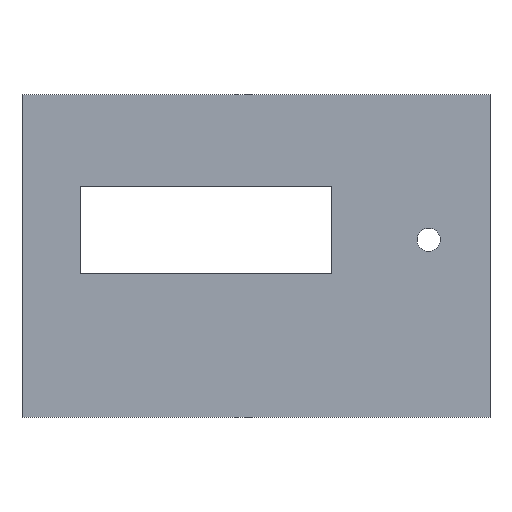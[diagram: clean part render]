
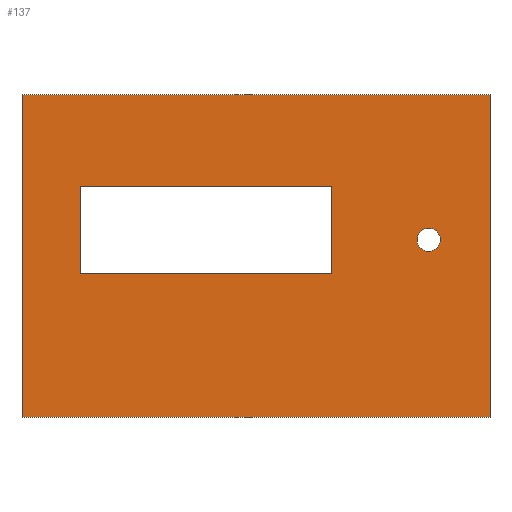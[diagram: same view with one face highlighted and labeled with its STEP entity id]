
A CAD part, front view. The second image highlights one B-rep face of the part: STEP entity #137.
In plain terms, the highlighted planar face has unit normal (0, -1, 0).
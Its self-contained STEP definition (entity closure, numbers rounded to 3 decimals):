
#21 = EDGE_CURVE('',#22,#24,#26,.T.);
#22 = VERTEX_POINT('',#23);
#23 = CARTESIAN_POINT('',(0.,0.,0.));
#24 = VERTEX_POINT('',#25);
#25 = CARTESIAN_POINT('',(0.,0.,100.));
#26 = SURFACE_CURVE('',#27,(#31,#43),.PCURVE_S1.);
#27 = LINE('',#28,#29);
#28 = CARTESIAN_POINT('',(0.,0.,0.));
#29 = VECTOR('',#30,1.);
#30 = DIRECTION('',(0.,0.,1.));
#31 = PCURVE('',#32,#37);
#32 = PLANE('',#33);
#33 = AXIS2_PLACEMENT_3D('',#34,#35,#36);
#34 = CARTESIAN_POINT('',(0.,0.,0.));
#35 = DIRECTION('',(1.,0.,0.));
#36 = DIRECTION('',(0.,0.,1.));
#37 = DEFINITIONAL_REPRESENTATION('',(#38),#42);
#38 = LINE('',#39,#40);
#39 = CARTESIAN_POINT('',(0.,0.));
#40 = VECTOR('',#41,1.);
#41 = DIRECTION('',(1.,0.));
#42 = ( GEOMETRIC_REPRESENTATION_CONTEXT(2) 
PARAMETRIC_REPRESENTATION_CONTEXT() REPRESENTATION_CONTEXT('2D SPACE',''
  ) );
#43 = PCURVE('',#44,#49);
#44 = PLANE('',#45);
#45 = AXIS2_PLACEMENT_3D('',#46,#47,#48);
#46 = CARTESIAN_POINT('',(0.,0.,0.));
#47 = DIRECTION('',(0.,1.,0.));
#48 = DIRECTION('',(0.,0.,1.));
#49 = DEFINITIONAL_REPRESENTATION('',(#50),#54);
#50 = LINE('',#51,#52);
#51 = CARTESIAN_POINT('',(0.,0.));
#52 = VECTOR('',#53,1.);
#53 = DIRECTION('',(1.,0.));
#54 = ( GEOMETRIC_REPRESENTATION_CONTEXT(2) 
PARAMETRIC_REPRESENTATION_CONTEXT() REPRESENTATION_CONTEXT('2D SPACE',''
  ) );
#72 = PLANE('',#73);
#73 = AXIS2_PLACEMENT_3D('',#74,#75,#76);
#74 = CARTESIAN_POINT('',(0.,0.,0.));
#75 = DIRECTION('',(0.,0.,1.));
#76 = DIRECTION('',(1.,0.,0.));
#126 = PLANE('',#127);
#127 = AXIS2_PLACEMENT_3D('',#128,#129,#130);
#128 = CARTESIAN_POINT('',(0.,0.,100.));
#129 = DIRECTION('',(0.,0.,1.));
#130 = DIRECTION('',(1.,0.,0.));
#137 = ADVANCED_FACE('',(#138,#213,#319),#44,.F.);
#138 = FACE_BOUND('',#139,.F.);
#139 = EDGE_LOOP('',(#140,#163,#164,#187));
#140 = ORIENTED_EDGE('',*,*,#141,.F.);
#141 = EDGE_CURVE('',#22,#142,#144,.T.);
#142 = VERTEX_POINT('',#143);
#143 = CARTESIAN_POINT('',(145.,0.,0.));
#144 = SURFACE_CURVE('',#145,(#149,#156),.PCURVE_S1.);
#145 = LINE('',#146,#147);
#146 = CARTESIAN_POINT('',(0.,0.,0.));
#147 = VECTOR('',#148,1.);
#148 = DIRECTION('',(1.,0.,0.));
#149 = PCURVE('',#44,#150);
#150 = DEFINITIONAL_REPRESENTATION('',(#151),#155);
#151 = LINE('',#152,#153);
#152 = CARTESIAN_POINT('',(0.,0.));
#153 = VECTOR('',#154,1.);
#154 = DIRECTION('',(0.,1.));
#155 = ( GEOMETRIC_REPRESENTATION_CONTEXT(2) 
PARAMETRIC_REPRESENTATION_CONTEXT() REPRESENTATION_CONTEXT('2D SPACE',''
  ) );
#156 = PCURVE('',#72,#157);
#157 = DEFINITIONAL_REPRESENTATION('',(#158),#162);
#158 = LINE('',#159,#160);
#159 = CARTESIAN_POINT('',(0.,0.));
#160 = VECTOR('',#161,1.);
#161 = DIRECTION('',(1.,0.));
#162 = ( GEOMETRIC_REPRESENTATION_CONTEXT(2) 
PARAMETRIC_REPRESENTATION_CONTEXT() REPRESENTATION_CONTEXT('2D SPACE',''
  ) );
#163 = ORIENTED_EDGE('',*,*,#21,.T.);
#164 = ORIENTED_EDGE('',*,*,#165,.T.);
#165 = EDGE_CURVE('',#24,#166,#168,.T.);
#166 = VERTEX_POINT('',#167);
#167 = CARTESIAN_POINT('',(145.,0.,100.));
#168 = SURFACE_CURVE('',#169,(#173,#180),.PCURVE_S1.);
#169 = LINE('',#170,#171);
#170 = CARTESIAN_POINT('',(0.,0.,100.));
#171 = VECTOR('',#172,1.);
#172 = DIRECTION('',(1.,0.,0.));
#173 = PCURVE('',#44,#174);
#174 = DEFINITIONAL_REPRESENTATION('',(#175),#179);
#175 = LINE('',#176,#177);
#176 = CARTESIAN_POINT('',(100.,0.));
#177 = VECTOR('',#178,1.);
#178 = DIRECTION('',(0.,1.));
#179 = ( GEOMETRIC_REPRESENTATION_CONTEXT(2) 
PARAMETRIC_REPRESENTATION_CONTEXT() REPRESENTATION_CONTEXT('2D SPACE',''
  ) );
#180 = PCURVE('',#126,#181);
#181 = DEFINITIONAL_REPRESENTATION('',(#182),#186);
#182 = LINE('',#183,#184);
#183 = CARTESIAN_POINT('',(0.,0.));
#184 = VECTOR('',#185,1.);
#185 = DIRECTION('',(1.,0.));
#186 = ( GEOMETRIC_REPRESENTATION_CONTEXT(2) 
PARAMETRIC_REPRESENTATION_CONTEXT() REPRESENTATION_CONTEXT('2D SPACE',''
  ) );
#187 = ORIENTED_EDGE('',*,*,#188,.F.);
#188 = EDGE_CURVE('',#142,#166,#189,.T.);
#189 = SURFACE_CURVE('',#190,(#194,#201),.PCURVE_S1.);
#190 = LINE('',#191,#192);
#191 = CARTESIAN_POINT('',(145.,0.,0.));
#192 = VECTOR('',#193,1.);
#193 = DIRECTION('',(0.,0.,1.));
#194 = PCURVE('',#44,#195);
#195 = DEFINITIONAL_REPRESENTATION('',(#196),#200);
#196 = LINE('',#197,#198);
#197 = CARTESIAN_POINT('',(0.,145.));
#198 = VECTOR('',#199,1.);
#199 = DIRECTION('',(1.,0.));
#200 = ( GEOMETRIC_REPRESENTATION_CONTEXT(2) 
PARAMETRIC_REPRESENTATION_CONTEXT() REPRESENTATION_CONTEXT('2D SPACE',''
  ) );
#201 = PCURVE('',#202,#207);
#202 = PLANE('',#203);
#203 = AXIS2_PLACEMENT_3D('',#204,#205,#206);
#204 = CARTESIAN_POINT('',(145.,0.,0.));
#205 = DIRECTION('',(1.,0.,0.));
#206 = DIRECTION('',(0.,0.,1.));
#207 = DEFINITIONAL_REPRESENTATION('',(#208),#212);
#208 = LINE('',#209,#210);
#209 = CARTESIAN_POINT('',(0.,0.));
#210 = VECTOR('',#211,1.);
#211 = DIRECTION('',(1.,0.));
#212 = ( GEOMETRIC_REPRESENTATION_CONTEXT(2) 
PARAMETRIC_REPRESENTATION_CONTEXT() REPRESENTATION_CONTEXT('2D SPACE',''
  ) );
#213 = FACE_BOUND('',#214,.F.);
#214 = EDGE_LOOP('',(#215,#243,#269,#295));
#215 = ORIENTED_EDGE('',*,*,#216,.F.);
#216 = EDGE_CURVE('',#217,#219,#221,.T.);
#217 = VERTEX_POINT('',#218);
#218 = CARTESIAN_POINT('',(18.,0.,71.5));
#219 = VERTEX_POINT('',#220);
#220 = CARTESIAN_POINT('',(96.,0.,71.5));
#221 = SURFACE_CURVE('',#222,(#226,#232),.PCURVE_S1.);
#222 = LINE('',#223,#224);
#223 = CARTESIAN_POINT('',(9.,0.,71.5));
#224 = VECTOR('',#225,1.);
#225 = DIRECTION('',(1.,0.,0.));
#226 = PCURVE('',#44,#227);
#227 = DEFINITIONAL_REPRESENTATION('',(#228),#231);
#228 = B_SPLINE_CURVE_WITH_KNOTS('',1,(#229,#230),.UNSPECIFIED.,.F.,.F.,
  (2,2),(9.,87.),.PIECEWISE_BEZIER_KNOTS.);
#229 = CARTESIAN_POINT('',(71.5,18.));
#230 = CARTESIAN_POINT('',(71.5,96.));
#231 = ( GEOMETRIC_REPRESENTATION_CONTEXT(2) 
PARAMETRIC_REPRESENTATION_CONTEXT() REPRESENTATION_CONTEXT('2D SPACE',''
  ) );
#232 = PCURVE('',#233,#238);
#233 = PLANE('',#234);
#234 = AXIS2_PLACEMENT_3D('',#235,#236,#237);
#235 = CARTESIAN_POINT('',(18.,-0.1,71.5));
#236 = DIRECTION('',(0.,0.,1.));
#237 = DIRECTION('',(1.,0.,0.));
#238 = DEFINITIONAL_REPRESENTATION('',(#239),#242);
#239 = B_SPLINE_CURVE_WITH_KNOTS('',1,(#240,#241),.UNSPECIFIED.,.F.,.F.,
  (2,2),(9.,87.),.PIECEWISE_BEZIER_KNOTS.);
#240 = CARTESIAN_POINT('',(0.,0.1));
#241 = CARTESIAN_POINT('',(78.,0.1));
#242 = ( GEOMETRIC_REPRESENTATION_CONTEXT(2) 
PARAMETRIC_REPRESENTATION_CONTEXT() REPRESENTATION_CONTEXT('2D SPACE',''
  ) );
#243 = ORIENTED_EDGE('',*,*,#244,.T.);
#244 = EDGE_CURVE('',#217,#245,#247,.T.);
#245 = VERTEX_POINT('',#246);
#246 = CARTESIAN_POINT('',(18.,0.,44.5));
#247 = SURFACE_CURVE('',#248,(#252,#258),.PCURVE_S1.);
#248 = LINE('',#249,#250);
#249 = CARTESIAN_POINT('',(18.,0.,22.25));
#250 = VECTOR('',#251,1.);
#251 = DIRECTION('',(0.,0.,-1.));
#252 = PCURVE('',#44,#253);
#253 = DEFINITIONAL_REPRESENTATION('',(#254),#257);
#254 = B_SPLINE_CURVE_WITH_KNOTS('',1,(#255,#256),.UNSPECIFIED.,.F.,.F.,
  (2,2),(-49.25,-22.25),.PIECEWISE_BEZIER_KNOTS.);
#255 = CARTESIAN_POINT('',(71.5,18.));
#256 = CARTESIAN_POINT('',(44.5,18.));
#257 = ( GEOMETRIC_REPRESENTATION_CONTEXT(2) 
PARAMETRIC_REPRESENTATION_CONTEXT() REPRESENTATION_CONTEXT('2D SPACE',''
  ) );
#258 = PCURVE('',#259,#264);
#259 = PLANE('',#260);
#260 = AXIS2_PLACEMENT_3D('',#261,#262,#263);
#261 = CARTESIAN_POINT('',(18.,-0.1,44.5));
#262 = DIRECTION('',(1.,0.,0.));
#263 = DIRECTION('',(0.,0.,1.));
#264 = DEFINITIONAL_REPRESENTATION('',(#265),#268);
#265 = B_SPLINE_CURVE_WITH_KNOTS('',1,(#266,#267),.UNSPECIFIED.,.F.,.F.,
  (2,2),(-49.25,-22.25),.PIECEWISE_BEZIER_KNOTS.);
#266 = CARTESIAN_POINT('',(27.,-0.1));
#267 = CARTESIAN_POINT('',(0.,-0.1));
#268 = ( GEOMETRIC_REPRESENTATION_CONTEXT(2) 
PARAMETRIC_REPRESENTATION_CONTEXT() REPRESENTATION_CONTEXT('2D SPACE',''
  ) );
#269 = ORIENTED_EDGE('',*,*,#270,.T.);
#270 = EDGE_CURVE('',#245,#271,#273,.T.);
#271 = VERTEX_POINT('',#272);
#272 = CARTESIAN_POINT('',(96.,0.,44.5));
#273 = SURFACE_CURVE('',#274,(#278,#284),.PCURVE_S1.);
#274 = LINE('',#275,#276);
#275 = CARTESIAN_POINT('',(9.,0.,44.5));
#276 = VECTOR('',#277,1.);
#277 = DIRECTION('',(1.,0.,0.));
#278 = PCURVE('',#44,#279);
#279 = DEFINITIONAL_REPRESENTATION('',(#280),#283);
#280 = B_SPLINE_CURVE_WITH_KNOTS('',1,(#281,#282),.UNSPECIFIED.,.F.,.F.,
  (2,2),(9.,87.),.PIECEWISE_BEZIER_KNOTS.);
#281 = CARTESIAN_POINT('',(44.5,18.));
#282 = CARTESIAN_POINT('',(44.5,96.));
#283 = ( GEOMETRIC_REPRESENTATION_CONTEXT(2) 
PARAMETRIC_REPRESENTATION_CONTEXT() REPRESENTATION_CONTEXT('2D SPACE',''
  ) );
#284 = PCURVE('',#285,#290);
#285 = PLANE('',#286);
#286 = AXIS2_PLACEMENT_3D('',#287,#288,#289);
#287 = CARTESIAN_POINT('',(18.,-0.1,44.5));
#288 = DIRECTION('',(0.,0.,1.));
#289 = DIRECTION('',(1.,0.,0.));
#290 = DEFINITIONAL_REPRESENTATION('',(#291),#294);
#291 = B_SPLINE_CURVE_WITH_KNOTS('',1,(#292,#293),.UNSPECIFIED.,.F.,.F.,
  (2,2),(9.,87.),.PIECEWISE_BEZIER_KNOTS.);
#292 = CARTESIAN_POINT('',(0.,0.1));
#293 = CARTESIAN_POINT('',(78.,0.1));
#294 = ( GEOMETRIC_REPRESENTATION_CONTEXT(2) 
PARAMETRIC_REPRESENTATION_CONTEXT() REPRESENTATION_CONTEXT('2D SPACE',''
  ) );
#295 = ORIENTED_EDGE('',*,*,#296,.F.);
#296 = EDGE_CURVE('',#219,#271,#297,.T.);
#297 = SURFACE_CURVE('',#298,(#302,#308),.PCURVE_S1.);
#298 = LINE('',#299,#300);
#299 = CARTESIAN_POINT('',(96.,0.,22.25));
#300 = VECTOR('',#301,1.);
#301 = DIRECTION('',(0.,0.,-1.));
#302 = PCURVE('',#44,#303);
#303 = DEFINITIONAL_REPRESENTATION('',(#304),#307);
#304 = B_SPLINE_CURVE_WITH_KNOTS('',1,(#305,#306),.UNSPECIFIED.,.F.,.F.,
  (2,2),(-49.25,-22.25),.PIECEWISE_BEZIER_KNOTS.);
#305 = CARTESIAN_POINT('',(71.5,96.));
#306 = CARTESIAN_POINT('',(44.5,96.));
#307 = ( GEOMETRIC_REPRESENTATION_CONTEXT(2) 
PARAMETRIC_REPRESENTATION_CONTEXT() REPRESENTATION_CONTEXT('2D SPACE',''
  ) );
#308 = PCURVE('',#309,#314);
#309 = PLANE('',#310);
#310 = AXIS2_PLACEMENT_3D('',#311,#312,#313);
#311 = CARTESIAN_POINT('',(96.,-0.1,44.5));
#312 = DIRECTION('',(1.,0.,0.));
#313 = DIRECTION('',(0.,0.,1.));
#314 = DEFINITIONAL_REPRESENTATION('',(#315),#318);
#315 = B_SPLINE_CURVE_WITH_KNOTS('',1,(#316,#317),.UNSPECIFIED.,.F.,.F.,
  (2,2),(-49.25,-22.25),.PIECEWISE_BEZIER_KNOTS.);
#316 = CARTESIAN_POINT('',(27.,-0.1));
#317 = CARTESIAN_POINT('',(0.,-0.1));
#318 = ( GEOMETRIC_REPRESENTATION_CONTEXT(2) 
PARAMETRIC_REPRESENTATION_CONTEXT() REPRESENTATION_CONTEXT('2D SPACE',''
  ) );
#319 = FACE_BOUND('',#320,.F.);
#320 = EDGE_LOOP('',(#321));
#321 = ORIENTED_EDGE('',*,*,#322,.F.);
#322 = EDGE_CURVE('',#323,#323,#325,.T.);
#323 = VERTEX_POINT('',#324);
#324 = CARTESIAN_POINT('',(126.,0.,58.6));
#325 = SURFACE_CURVE('',#326,(#331,#338),.PCURVE_S1.);
#326 = CIRCLE('',#327,3.6);
#327 = AXIS2_PLACEMENT_3D('',#328,#329,#330);
#328 = CARTESIAN_POINT('',(126.,0.,55.));
#329 = DIRECTION('',(0.,1.,0.));
#330 = DIRECTION('',(0.,-0.,1.));
#331 = PCURVE('',#44,#332);
#332 = DEFINITIONAL_REPRESENTATION('',(#333),#337);
#333 = CIRCLE('',#334,3.6);
#334 = AXIS2_PLACEMENT_2D('',#335,#336);
#335 = CARTESIAN_POINT('',(55.,126.));
#336 = DIRECTION('',(1.,0.));
#337 = ( GEOMETRIC_REPRESENTATION_CONTEXT(2) 
PARAMETRIC_REPRESENTATION_CONTEXT() REPRESENTATION_CONTEXT('2D SPACE',''
  ) );
#338 = PCURVE('',#339,#344);
#339 = CYLINDRICAL_SURFACE('',#340,3.6);
#340 = AXIS2_PLACEMENT_3D('',#341,#342,#343);
#341 = CARTESIAN_POINT('',(126.,-0.1,55.));
#342 = DIRECTION('',(0.,1.,0.));
#343 = DIRECTION('',(0.,-0.,1.));
#344 = DEFINITIONAL_REPRESENTATION('',(#345),#349);
#345 = LINE('',#346,#347);
#346 = CARTESIAN_POINT('',(0.,0.1));
#347 = VECTOR('',#348,1.);
#348 = DIRECTION('',(1.,0.));
#349 = ( GEOMETRIC_REPRESENTATION_CONTEXT(2) 
PARAMETRIC_REPRESENTATION_CONTEXT() REPRESENTATION_CONTEXT('2D SPACE',''
  ) );
